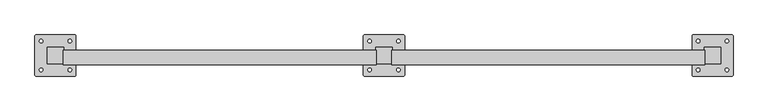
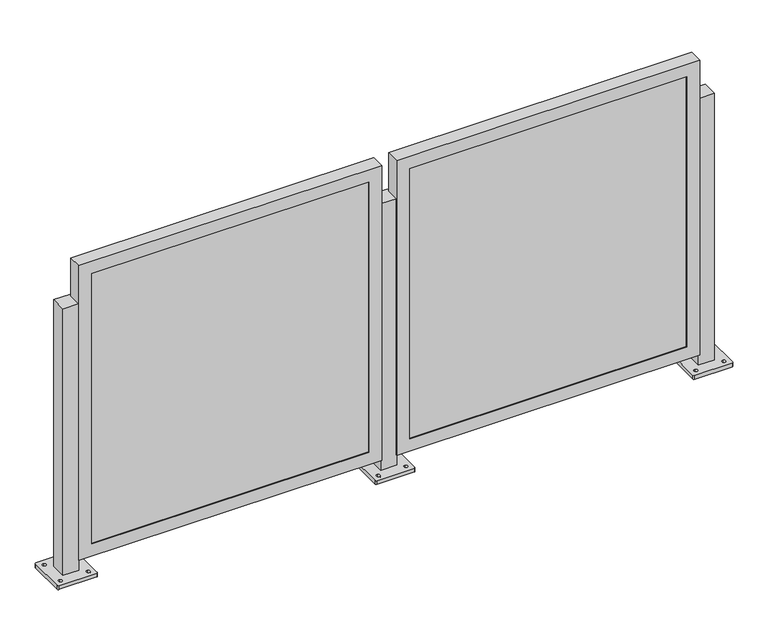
"""IFC4 building model written with IfcOpenShell, lengths in millimetres: railing geometry, Railing - Amico Architectural - Perforated Railing - Bilbao."""

import ifcopenshell
import ifcopenshell.guid

model = None  # the IFC model being written
_history = None  # IfcOwnerHistory: only IFC2X3 demands one
_inside = {}  # id of a spatial element -> (the spatial element, [elements in it])
_under = {}  # id of a project, library or spatial element -> (it, [spatial elements below it])
_declared = {}  # id of a project -> (the project, [libraries it declares])
_typed = {}  # id of a type object -> (the type object, [elements of that type])
_made_of = {}  # id of a material, layer set ... -> (it, [elements and type objects made of it])


def new_model(schema):
    """Start an empty IFC model of exactly this schema.

    Asked for "IFC4X3", IfcOpenShell would pick the latest addendum, in which some entities
    have other attributes; the version numbers below select the first issue.
    IFC2X3 requires an IfcOwnerHistory on every rooted entity: one is made here for all.
    """
    global model, _history
    if schema == "IFC4X3":
        model = ifcopenshell.file(schema_version=(4, 3, 0, 0))
    else:
        model = ifcopenshell.file(schema=schema)
    _inside.clear()
    _under.clear()
    _declared.clear()
    _typed.clear()
    _made_of.clear()
    _history = None
    if model.schema == "IFC2X3":
        org = make("IfcOrganization", Name="unknown")
        user = make(
            "IfcPersonAndOrganization",
            ThePerson=make("IfcPerson", FamilyName="unknown"),
            TheOrganization=org,
        )
        app = make(
            "IfcApplication",
            ApplicationDeveloper=org,
            Version="unknown",
            ApplicationFullName="unknown",
            ApplicationIdentifier="unknown",
        )
        _history = make(
            "IfcOwnerHistory",
            OwningUser=user,
            OwningApplication=app,
            ChangeAction="ADDED",
            CreationDate=0,
        )
    return model


def make(cls, **values):
    """One entity of the class cls with the attributes given. An attribute that is None is left unset."""
    return model.create_entity(
        cls, **{name: value for name, value in values.items() if value is not None}
    )


def rooted(cls, **values):
    """An entity with a GlobalId (a new one), such as an element, a storey or a relation."""
    return make(cls, GlobalId=ifcopenshell.guid.new(), OwnerHistory=_history, **values)


def si_unit(unit_type, name, prefix=None):
    """IfcSIUnit, for example si_unit("LENGTHUNIT", "METRE", prefix="MILLI")."""
    return make("IfcSIUnit", UnitType=unit_type, Prefix=prefix, Name=name)


def assignment(units):
    """IfcUnitAssignment: the units of a project."""
    return None if units is None else make("IfcUnitAssignment", Units=units)


def point(xyz):
    """IfcCartesianPoint."""
    return None if xyz is None else make("IfcCartesianPoint", Coordinates=xyz)


def direction(xyz):
    """IfcDirection."""
    return None if xyz is None else make("IfcDirection", DirectionRatios=xyz)


def frame(location, z_axis=None, x_axis=None):
    """IfcAxis2Placement3D, a coordinate frame: its origin and axes. An axis left out is left unset."""
    return make(
        "IfcAxis2Placement3D",
        Location=point(location),
        Axis=direction(z_axis),
        RefDirection=direction(x_axis),
    )


def origin():
    """The frame at (0, 0, 0) with its axes left unset."""
    return frame((0.0, 0.0, 0.0))


def place(relative_to, where):
    """IfcLocalPlacement: puts the frame where relative to a parent placement (None: the world)."""
    return make(
        "IfcLocalPlacement", PlacementRelTo=relative_to, RelativePlacement=where
    )


def context(
    kind, dimensions, precision=None, world=None, true_north=None, identifier=None
):
    """IfcGeometricRepresentationContext, for example the 3D "Model" context."""
    return make(
        "IfcGeometricRepresentationContext",
        ContextIdentifier=identifier,
        ContextType=kind,
        CoordinateSpaceDimension=dimensions,
        Precision=precision,
        WorldCoordinateSystem=world,
        TrueNorth=true_north,
    )


def project(units=None, contexts=None):
    """IfcProject with its units and contexts."""
    return rooted(
        "IfcProject",
        Name="project",
        RepresentationContexts=contexts,
        UnitsInContext=assignment(units),
    )


def spatial(cls, under=None, at=None, **own):
    """A site, building, storey or space (cls), placed at a placement, below another one or the project."""
    s = rooted(cls, ObjectPlacement=at, **own)
    if under is not None:
        _under.setdefault(under.id(), (under, []))[1].append(s)
    return s


def polyline(points):
    """IfcPolyline through the points."""
    return make("IfcPolyline", Points=[point(p) for p in points])


def circle_curve(where, radius):
    """IfcCircle in the frame where."""
    return make("IfcCircle", Position=where, Radius=radius)


def outline(outer, holes=None, kind="AREA"):
    """IfcArbitraryClosedProfileDef: a profile drawn as a closed curve; with holes, ...WithVoids."""
    if holes is None:
        return make("IfcArbitraryClosedProfileDef", ProfileType=kind, OuterCurve=outer)
    return make(
        "IfcArbitraryProfileDefWithVoids",
        ProfileType=kind,
        OuterCurve=outer,
        InnerCurves=holes,
    )


def extrude(swept, where, along, depth):
    """IfcExtrudedAreaSolid: the profile swept, set in the frame where, extruded along a direction by depth."""
    return make(
        "IfcExtrudedAreaSolid",
        SweptArea=swept,
        Position=where,
        ExtrudedDirection=direction(along),
        Depth=depth,
    )


def faces_of(points, faces, orient=None, outer=None):
    """IfcFace entities. A face is a list of loops; a loop is a list of indices into points, from 0.

    orient and outer hold one flag for each loop. By default every Orientation is true, the
    first loop of a face is its IfcFaceOuterBound and the others are IfcFaceBound.
    """
    made = []
    for i, loops in enumerate(faces):
        bounds = []
        for j, loop in enumerate(loops):
            is_outer = j == 0 if outer is None else outer[i][j]
            bounds.append(
                make(
                    "IfcFaceOuterBound" if is_outer else "IfcFaceBound",
                    Bound=make("IfcPolyLoop", Polygon=[points[k] for k in loop]),
                    Orientation=True if orient is None else orient[i][j],
                )
            )
        made.append(make("IfcFace", Bounds=bounds))
    return made


def faceted_brep(points, faces, orient=None, outer=None, voids=None):
    """IfcFacetedBrep: a solid bounded by flat faces; with voids (closed shells), ...WithVoids."""
    shared = [point(p) for p in points]
    hull = make("IfcClosedShell", CfsFaces=faces_of(shared, faces, orient, outer))
    if voids is None:
        return make("IfcFacetedBrep", Outer=hull)
    return make(
        "IfcFacetedBrepWithVoids",
        Outer=hull,
        Voids=[
            make(cls, CfsFaces=faces_of(shared, fs, o, b)) for cls, fs, o, b in voids
        ],
    )


def shape(context_of_items, identifier, shape_type, items):
    """IfcShapeRepresentation: the items that make up one representation, for example the "Body"."""
    return make(
        "IfcShapeRepresentation",
        ContextOfItems=context_of_items,
        RepresentationIdentifier=identifier,
        RepresentationType=shape_type,
        Items=items,
    )


def source(mapping_origin, context_of_items, identifier, shape_type, items):
    """IfcRepresentationMap: a shape defined once, which mapped items show again and again."""
    return make(
        "IfcRepresentationMap",
        MappingOrigin=mapping_origin,
        MappedRepresentation=shape(context_of_items, identifier, shape_type, items),
    )


def transform(
    local_origin,
    x_axis=None,
    y_axis=None,
    z_axis=None,
    scale=None,
    scale2=None,
    scale3=None,
    uniform=True,
):
    """IfcCartesianTransformationOperator3D, or its non-uniform kind. x_axis, y_axis, z_axis: its Axis1, 2, 3."""
    if uniform:
        return make(
            "IfcCartesianTransformationOperator3D",
            Axis1=direction(x_axis),
            Axis2=direction(y_axis),
            LocalOrigin=point(local_origin),
            Scale=scale,
            Axis3=direction(z_axis),
        )
    return make(
        "IfcCartesianTransformationOperator3DnonUniform",
        Axis1=direction(x_axis),
        Axis2=direction(y_axis),
        LocalOrigin=point(local_origin),
        Scale=scale,
        Axis3=direction(z_axis),
        Scale2=scale2,
        Scale3=scale3,
    )


def mapped(mapping_source, mapping_target):
    """IfcMappedItem: shows the shape of a source again, moved by a transform."""
    return make(
        "IfcMappedItem", MappingSource=mapping_source, MappingTarget=mapping_target
    )


def made_of(thing, what):
    """Note that an element or type object is made of a material, layer set ...; save() writes the relation."""
    if what is not None:
        _made_of.setdefault(what.id(), (what, []))[1].append(thing)
    return thing


def element(
    cls,
    number,
    at=None,
    inside=None,
    cuts=None,
    type_object=None,
    material=None,
    context=None,
    identifier="Body",
    shape_type=None,
    held_by="IfcProductDefinitionShape",
    body=None,
    shapes=None,
    **own,
):
    """One element of the class cls, such as IfcWall. Its Tag is "e" and its number.

    at: its placement. inside: the storey or other place that contains it. cuts: it is an
    opening in that element (IfcRelVoidsElement). A single representation is given by context,
    identifier, shape_type and body (its items); several are given by shapes. held_by: the class
    of the entity that holds the representations. save() writes the other relations.
    """
    e = rooted(cls, Tag="e%d" % number, ObjectPlacement=at, **own)
    if body is not None:
        shapes = [shape(context, identifier, shape_type, body)]
    if shapes is not None:
        e.Representation = make(held_by, Representations=shapes)
    if inside is not None:
        _inside.setdefault(inside.id(), (inside, []))[1].append(e)
    if cuts is not None:
        rooted(
            "IfcRelVoidsElement", RelatingBuildingElement=cuts, RelatedOpeningElement=e
        )
    if type_object is not None:
        _typed.setdefault(type_object.id(), (type_object, []))[1].append(e)
    return made_of(e, material)


def aggregate(whole, parts):
    """IfcRelAggregates: a whole, such as a stair, and the parts it consists of."""
    return rooted("IfcRelAggregates", RelatingObject=whole, RelatedObjects=parts)


def save(model, path):
    """Write the relations noted so far, then the file.

    IfcRelAggregates (storeys below a building ...), IfcRelContainedInSpatialStructure (elements
    in a storey), IfcRelDefinesByType, IfcRelAssociatesMaterial and IfcRelDeclares: one each for
    every whole, place, type object, material and project.
    """
    for whole, parts in _under.values():
        aggregate(whole, parts)
    for where, things in _inside.values():
        rooted(
            "IfcRelContainedInSpatialStructure",
            RelatedElements=things,
            RelatingStructure=where,
        )
    for kind, things in _typed.values():
        rooted("IfcRelDefinesByType", RelatedObjects=things, RelatingType=kind)
    for what, things in _made_of.values():
        rooted("IfcRelAssociatesMaterial", RelatedObjects=things, RelatingMaterial=what)
    for by, libraries in _declared.values():
        rooted("IfcRelDeclares", RelatingContext=by, RelatedDefinitions=libraries)
    model.write(path)


def plane_surface(at):
    """IfcPlane: the flat surface through the origin of the frame at, square to its z axis."""
    return make("IfcPlane", Position=at)


def cylinder_surface(at, radius):
    """IfcCylindricalSurface: all points at the distance radius from the z axis of the frame at."""
    return make("IfcCylindricalSurface", Position=at, Radius=radius)


def revolved_surface(curve, axis_point, axis_direction):
    """IfcSurfaceOfRevolution: the curve turned about the line through axis_point along axis_direction."""
    return make(
        "IfcSurfaceOfRevolution",
        SweptCurve=make("IfcArbitraryOpenProfileDef", ProfileType="CURVE", Curve=curve),
        AxisPosition=make("IfcAxis1Placement", Location=point(axis_point), Axis=direction(axis_direction)),
    )


def advanced_brep(points, edges, surfaces, faces):
    """IfcAdvancedBrep: a solid bounded by faces that lie on surfaces and meet in shared edges.

    An edge is (start, end): straight between two places in points (the first is 0);
    or (start, end, curve); or (start, end, curve, False) where it runs against its curve.
    A face is (place in surfaces, loops), or (place, loops, False) where it looks against
    its surface's normal. A loop lists edges by number (the first is 1), with a minus sign
    where the edge is run from its end to its start. The first loop is the outer one.
    """
    corners = [point(p) for p in points]
    vertices = [make("IfcVertexPoint", VertexGeometry=c) for c in corners]
    made = []
    for start, end, *more in edges:
        made.append(
            make(
                "IfcEdgeCurve",
                EdgeStart=vertices[start],
                EdgeEnd=vertices[end],
                EdgeGeometry=more[0] if more else make("IfcPolyline", Points=[corners[start], corners[end]]),
                SameSense=more[1] if len(more) > 1 else True,
            )
        )
    hull = []
    for where, loops, *sense in faces:
        bounds = []
        for j, loop in enumerate(loops):
            ring = [make("IfcOrientedEdge", EdgeElement=made[abs(k) - 1], Orientation=k > 0) for k in loop]
            bounds.append(
                make(
                    "IfcFaceOuterBound" if j == 0 else "IfcFaceBound",
                    Bound=make("IfcEdgeLoop", EdgeList=ring),
                    Orientation=True,
                )
            )
        hull.append(make("IfcAdvancedFace", Bounds=bounds, FaceSurface=surfaces[where], SameSense=sense[0] if sense else True))
    return make("IfcAdvancedBrep", Outer=make("IfcClosedShell", CfsFaces=hull))


def railing_8295e99d(model_context):
    return source(origin(), model_context, "Body", "SolidModel", [
        advanced_brep(
        [(-11309.6608616, -3820.6813531, 914.4), (-11309.6608616, -3871.4813531, 914.4), (-11258.8608616, -3871.4813531, 914.4), (-11258.8608616, -3820.6813531, 914.4), (-11347.7608618, -3906.4063121, 0.0), (-11347.7608618, -3785.7563942, 0.0), (-11344.5858336, -3782.581366, 0.0), (-11223.9358896, -3782.581366, 0.0), (-11220.7608615, -3785.7563942, 0.0), (-11220.7608615, -3906.4063121, 0.0), (-11223.9358896, -3909.5813403, 0.0), (-11344.5858336, -3909.5813403, 0.0), (-11328.7108492, -3896.0876078, 0.0), (-11328.7108492, -3884.9750953, 0.0), (-11328.7108601, -3807.1876034, 0.0), (-11328.7108601, -3796.0751218, 0.0), (-11239.8108482, -3896.0876063, 0.0), (-11239.8108482, -3884.9750956, 0.0), (-11239.8108591, -3807.1876019, 0.0), (-11239.8108591, -3796.0751221, 0.0), (-11309.6608616, -3820.6813531, 12.7), (-11309.6608616, -3871.4813531, 12.7), (-11258.8608616, -3871.4813531, 12.7), (-11258.8608616, -3820.6813531, 12.7), (-11347.7608618, -3906.4063121, 12.7), (-11344.5858336, -3909.5813403, 12.7), (-11223.9358896, -3909.5813403, 12.7), (-11220.7608615, -3906.4063121, 12.7), (-11220.7608615, -3785.7563942, 12.7), (-11223.9358896, -3782.581366, 12.7), (-11344.5858336, -3782.581366, 12.7), (-11347.7608618, -3785.7563942, 12.7), (-11328.7108492, -3896.0876078, 12.7), (-11328.7108492, -3884.9750953, 12.7), (-11328.7108601, -3807.1876034, 12.7), (-11328.7108601, -3796.0751218, 12.7), (-11239.8108482, -3896.0876063, 12.7), (-11239.8108482, -3884.9750956, 12.7), (-11239.8108591, -3807.1876019, 12.7), (-11239.8108591, -3796.0751221, 12.7)],
        [
            (0, 1),
            (1, 2),
            (2, 3),
            (3, 0),
            (4, 5),
            (5, 6, circle_curve(frame((-11344.5858336, -3785.7563942, 0.0), z_axis=(0.0, 0.0, -1.0), x_axis=(0.0, 1.0, 0.0)), 3.1750282)),
            (6, 7),
            (7, 8, circle_curve(frame((-11223.9358896, -3785.7563942, 0.0), z_axis=(0.0, 0.0, -1.0), x_axis=(0.0, 1.0, 0.0)), 3.1750282)),
            (8, 9),
            (9, 10, circle_curve(frame((-11223.9358896, -3906.4063121, 0.0), z_axis=(0.0, 0.0, -1.0), x_axis=(0.0, 1.0, 0.0)), 3.1750282)),
            (10, 11),
            (11, 4, circle_curve(frame((-11344.5858336, -3906.4063121, 0.0), z_axis=(0.0, 0.0, -1.0), x_axis=(0.0, 1.0, 0.0)), 3.1750282)),
            (12, 13, circle_curve(frame((-11328.7108492, -3890.5313516, 0.0), z_axis=(0.0, 0.0, 1.0), x_axis=(0.0, 1.0, 0.0)), 5.5562562)),
            (13, 12, circle_curve(frame((-11328.7108492, -3890.5313516, 0.0), z_axis=(0.0, 0.0, 1.0), x_axis=(0.0, 1.0, 0.0)), 5.5562562)),
            (14, 15, circle_curve(frame((-11328.7108601, -3801.6313626, 0.0), z_axis=(0.0, 0.0, 1.0), x_axis=(0.0, 1.0, 0.0)), 5.5562408)),
            (15, 14, circle_curve(frame((-11328.7108601, -3801.6313626, 0.0), z_axis=(0.0, 0.0, 1.0), x_axis=(0.0, 1.0, 0.0)), 5.5562408)),
            (16, 17, circle_curve(frame((-11239.8108482, -3890.5313509, 0.0), z_axis=(0.0, 0.0, 1.0), x_axis=(0.0, 1.0, 0.0)), 5.5562553)),
            (17, 16, circle_curve(frame((-11239.8108482, -3890.5313509, 0.0), z_axis=(0.0, 0.0, 1.0), x_axis=(0.0, 1.0, 0.0)), 5.5562553)),
            (18, 19, circle_curve(frame((-11239.8108591, -3801.631362, 0.0), z_axis=(0.0, 0.0, 1.0), x_axis=(0.0, 1.0, 0.0)), 5.5562399)),
            (19, 18, circle_curve(frame((-11239.8108591, -3801.631362, 0.0), z_axis=(0.0, 0.0, 1.0), x_axis=(0.0, 1.0, 0.0)), 5.5562399)),
            (0, 20),
            (20, 21),
            (21, 1),
            (21, 22),
            (22, 2),
            (22, 23),
            (23, 3),
            (23, 20),
            (24, 25, circle_curve(frame((-11344.5858336, -3906.4063121, 12.7), z_axis=(0.0, 0.0, 1.0), x_axis=(0.0, 1.0, 0.0)), 3.1750282)),
            (25, 26),
            (26, 27, circle_curve(frame((-11223.9358896, -3906.4063121, 12.7), z_axis=(0.0, 0.0, 1.0), x_axis=(0.0, 1.0, 0.0)), 3.1750282)),
            (27, 28),
            (28, 29, circle_curve(frame((-11223.9358896, -3785.7563942, 12.7), z_axis=(0.0, 0.0, 1.0), x_axis=(0.0, 1.0, 0.0)), 3.1750282)),
            (29, 30),
            (30, 31, circle_curve(frame((-11344.5858336, -3785.7563942, 12.7), z_axis=(0.0, 0.0, 1.0), x_axis=(0.0, 1.0, 0.0)), 3.1750282)),
            (31, 24),
            (32, 33, circle_curve(frame((-11328.7108492, -3890.5313516, 12.7), z_axis=(0.0, 0.0, -1.0), x_axis=(0.0, 1.0, 0.0)), 5.5562562)),
            (33, 32, circle_curve(frame((-11328.7108492, -3890.5313516, 12.7), z_axis=(0.0, 0.0, -1.0), x_axis=(0.0, 1.0, 0.0)), 5.5562562)),
            (34, 35, circle_curve(frame((-11328.7108601, -3801.6313626, 12.7), z_axis=(0.0, 0.0, -1.0), x_axis=(0.0, 1.0, 0.0)), 5.5562408)),
            (35, 34, circle_curve(frame((-11328.7108601, -3801.6313626, 12.7), z_axis=(0.0, 0.0, -1.0), x_axis=(0.0, 1.0, 0.0)), 5.5562408)),
            (36, 37, circle_curve(frame((-11239.8108482, -3890.5313509, 12.7), z_axis=(0.0, 0.0, -1.0), x_axis=(0.0, 1.0, 0.0)), 5.5562553)),
            (37, 36, circle_curve(frame((-11239.8108482, -3890.5313509, 12.7), z_axis=(0.0, 0.0, -1.0), x_axis=(0.0, 1.0, 0.0)), 5.5562553)),
            (38, 39, circle_curve(frame((-11239.8108591, -3801.631362, 12.7), z_axis=(0.0, 0.0, -1.0), x_axis=(0.0, 1.0, 0.0)), 5.5562399)),
            (39, 38, circle_curve(frame((-11239.8108591, -3801.631362, 12.7), z_axis=(0.0, 0.0, -1.0), x_axis=(0.0, 1.0, 0.0)), 5.5562399)),
            (24, 4),
            (11, 25),
            (10, 26),
            (9, 27),
            (8, 28),
            (7, 29),
            (6, 30),
            (5, 31),
            (32, 12),
            (13, 33),
            (34, 14),
            (15, 35),
            (36, 16),
            (17, 37),
            (38, 18),
            (19, 39),
        ],
        [
            plane_surface(frame((-11309.6608616, -3871.4813531, 914.4), z_axis=(0.0, 0.0, 1.0), x_axis=(0.0, -1.0, 0.0))),
            plane_surface(frame((-11309.6608616, -3871.4813531, 0.0), z_axis=(0.0, 0.0, -1.0), x_axis=(0.0, 1.0, 0.0))),
            plane_surface(frame((-11309.6608616, -3820.6813531, 914.4), z_axis=(-1.0, 0.0, 0.0), x_axis=(0.0, 0.0, -1.0))),
            plane_surface(frame((-11309.6608616, -3871.4813531, 914.4), z_axis=(0.0, -1.0, 0.0), x_axis=(0.0, 0.0, -1.0))),
            plane_surface(frame((-11258.8608616, -3871.4813531, 914.4), z_axis=(1.0, 0.0, 0.0), x_axis=(0.0, 0.0, -1.0))),
            plane_surface(frame((-11258.8608616, -3820.6813531, 914.4), z_axis=(0.0, 1.0, 0.0), x_axis=(0.0, 0.0, -1.0))),
            plane_surface(frame((-11344.5858336, -3903.231284, 12.7), z_axis=(0.0, 0.0, 1.0), x_axis=(-1.0, 0.0, 0.0))),
            cylinder_surface(frame((-11344.5858336, -3906.4063121, 0.0), z_axis=(0.0, 0.0, 1.0), x_axis=(0.0, 1.0, 0.0)), 3.1750282),
            plane_surface(frame((-11344.5858336, -3909.5813403, 12.7), z_axis=(1.1945386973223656e-12, -1.0, 0.0), x_axis=(0.0, 0.0, -1.0))),
            cylinder_surface(frame((-11223.9358896, -3906.4063121, 0.0), z_axis=(0.0, 0.0, 1.0), x_axis=(0.0, 1.0, 0.0)), 3.1750282),
            plane_surface(frame((-11220.7608615, -3906.4063121, 12.7), z_axis=(1.0, 0.0, 0.0), x_axis=(0.0, 0.0, -1.0))),
            cylinder_surface(frame((-11223.9358896, -3785.7563942, 0.0), z_axis=(0.0, 0.0, 1.0), x_axis=(0.0, 1.0, 0.0)), 3.1750282),
            plane_surface(frame((-11223.9358896, -3782.581366, 12.7), z_axis=(-1.1946088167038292e-12, 1.0, 0.0), x_axis=(0.0, 0.0, -1.0))),
            cylinder_surface(frame((-11344.5858336, -3785.7563942, 0.0), z_axis=(0.0, 0.0, 1.0), x_axis=(0.0, 1.0, 0.0)), 3.1750282),
            plane_surface(frame((-11347.7608618, -3785.7563942, 12.7), z_axis=(-1.0, 0.0, 0.0), x_axis=(0.0, 0.0, -1.0))),
            revolved_surface(polyline([(-11328.7108492, -3884.9750954, 0.0), (-11328.7108492, -3884.9750954, 12.7)]), (-11328.7108492, -3890.5313516, 0.0), (0.0, 0.0, -1.0)),
            revolved_surface(polyline([(-11328.7108601, -3796.0751218, 0.0), (-11328.7108601, -3796.0751218, 12.7)]), (-11328.7108601, -3801.6313626, 0.0), (0.0, 0.0, -1.0)),
            revolved_surface(polyline([(-11239.8108482, -3884.9750956, 0.0), (-11239.8108482, -3884.9750956, 12.7)]), (-11239.8108482, -3890.5313509, 0.0), (0.0, 0.0, -1.0)),
            revolved_surface(polyline([(-11239.8108591, -3796.0751221, 0.0), (-11239.8108591, -3796.0751221, 12.7)]), (-11239.8108591, -3801.631362, 0.0), (0.0, 0.0, -1.0)),
        ],
        [
            (0, [[1, 2, 3, 4]]),
            (1, [[5, 6, 7, 8, 9, 10, 11, 12], [13, 14], [15, 16], [17, 18], [19, 20]]),
            (2, [[-1, 21, 22, 23]]),
            (3, [[-2, -23, 24, 25]]),
            (4, [[-3, -25, 26, 27]]),
            (5, [[-4, -27, 28, -21]]),
            (6, [[29, 30, 31, 32, 33, 34, 35, 36], [-22, -28, -26, -24], [37, 38], [39, 40], [41, 42], [43, 44]]),
            (7, [[-29, 45, -12, 46]]),
            (8, [[-30, -46, -11, 47]]),
            (9, [[-31, -47, -10, 48]]),
            (10, [[-32, -48, -9, 49]]),
            (11, [[-33, -49, -8, 50]]),
            (12, [[-34, -50, -7, 51]]),
            (13, [[-35, -51, -6, 52]]),
            (14, [[-36, -52, -5, -45]]),
            (15, [[-37, 53, -14, 54]]),
            (15, [[-38, -54, -13, -53]]),
            (16, [[-39, 55, -16, 56]]),
            (16, [[-40, -56, -15, -55]]),
            (17, [[-41, 57, -18, 58]]),
            (17, [[-42, -58, -17, -57]]),
            (18, [[-43, 59, -20, 60]]),
            (18, [[-44, -60, -19, -59]]),
        ],
    ),
        faceted_brep([(-12276.065315, -3874.2245531, 47.625), (-11307.690315, -3874.2245531, 47.625), (-11307.690315, -3874.2245531, 1044.575), (-12276.065315, -3874.2245531, 1044.575), (-12234.790315, -3874.2245531, 1003.3), (-11348.965315, -3874.2245531, 1003.3), (-11348.965315, -3874.2245531, 88.9), (-12234.790315, -3874.2245531, 88.9), (-12234.790315, -3871.4813531, 1003.3), (-12234.790315, -3871.4813531, 88.9), (-12276.065315, -3830.3512566, 1044.575), (-12276.065315, -3830.3512566, 47.625), (-12272.890315, -3830.3512566, 1041.4), (-12272.890315, -3871.4813531, 1041.4), (-12272.890315, -3871.4813531, 50.8), (-12272.890315, -3830.3512566, 50.8), (-11348.965315, -3871.4813531, 88.9), (-11307.690315, -3830.3512566, 47.625), (-11310.865315, -3871.4813531, 50.8), (-11310.865315, -3830.3512566, 50.8), (-11348.965315, -3871.4813531, 1003.3), (-11307.690315, -3830.3512566, 1044.575), (-11310.865315, -3871.4813531, 1041.4), (-11310.865315, -3830.3512566, 1041.4)], [[[0, 1, 2, 3], [4, 5, 6, 7]], [[8, 4, 7, 9]], [[3, 10, 11, 0]], [[12, 13, 14, 15]], [[9, 7, 6, 16]], [[0, 11, 17, 1]], [[15, 14, 18, 19]], [[16, 6, 5, 20]], [[1, 17, 21, 2]], [[19, 18, 22, 23]], [[20, 5, 4, 8]], [[10, 21, 17, 11], [15, 19, 23, 12]], [[2, 21, 10, 3]], [[13, 22, 18, 14], [9, 16, 20, 8]], [[23, 22, 13, 12]]]),
        extrude(outline(polyline([(-12272.890315, -3861.9563531), (-11310.865315, -3861.9563531), (-11310.865315, -3871.4813531), (-12272.890315, -3871.4813531), (-12272.890315, -3861.9563531)])), frame((0.0, 0.0, 50.8), z_axis=(0.0, 0.0, 1.0), x_axis=(1.0, 0.0, 0.0)), (0.0, 0.0, 1.0), 990.6),
        advanced_brep(
        [(-12325.6608616, -3820.6813531, 914.4), (-12325.6608616, -3871.4813531, 914.4), (-12274.8608616, -3871.4813531, 914.4), (-12274.8608616, -3820.6813531, 914.4), (-12363.7608618, -3906.4063121, 0.0), (-12363.7608618, -3785.7563942, 0.0), (-12360.5858336, -3782.581366, 0.0), (-12239.9358896, -3782.581366, 0.0), (-12236.7608615, -3785.7563942, 0.0), (-12236.7608615, -3906.4063121, 0.0), (-12239.9358896, -3909.5813403, 0.0), (-12360.5858336, -3909.5813403, 0.0), (-12344.7108492, -3896.0876078, 0.0), (-12344.7108492, -3884.9750953, 0.0), (-12344.7108601, -3807.1876034, 0.0), (-12344.7108601, -3796.0751218, 0.0), (-12255.8108482, -3896.0876063, 0.0), (-12255.8108482, -3884.9750956, 0.0), (-12255.8108591, -3807.1876019, 0.0), (-12255.8108591, -3796.0751221, 0.0), (-12325.6608616, -3820.6813531, 12.7), (-12325.6608616, -3871.4813531, 12.7), (-12274.8608616, -3871.4813531, 12.7), (-12274.8608616, -3820.6813531, 12.7), (-12363.7608618, -3906.4063121, 12.7), (-12360.5858336, -3909.5813403, 12.7), (-12239.9358896, -3909.5813403, 12.7), (-12236.7608615, -3906.4063121, 12.7), (-12236.7608615, -3785.7563942, 12.7), (-12239.9358896, -3782.581366, 12.7), (-12360.5858336, -3782.581366, 12.7), (-12363.7608618, -3785.7563942, 12.7), (-12344.7108492, -3896.0876078, 12.7), (-12344.7108492, -3884.9750953, 12.7), (-12344.7108601, -3807.1876034, 12.7), (-12344.7108601, -3796.0751218, 12.7), (-12255.8108482, -3896.0876063, 12.7), (-12255.8108482, -3884.9750956, 12.7), (-12255.8108591, -3807.1876019, 12.7), (-12255.8108591, -3796.0751221, 12.7)],
        [
            (0, 1),
            (1, 2),
            (2, 3),
            (3, 0),
            (4, 5),
            (5, 6, circle_curve(frame((-12360.5858336, -3785.7563942, 0.0), z_axis=(0.0, 0.0, -1.0), x_axis=(0.0, 1.0, 0.0)), 3.1750282)),
            (6, 7),
            (7, 8, circle_curve(frame((-12239.9358896, -3785.7563942, 0.0), z_axis=(0.0, 0.0, -1.0), x_axis=(0.0, 1.0, 0.0)), 3.1750282)),
            (8, 9),
            (9, 10, circle_curve(frame((-12239.9358896, -3906.4063121, 0.0), z_axis=(0.0, 0.0, -1.0), x_axis=(0.0, 1.0, 0.0)), 3.1750282)),
            (10, 11),
            (11, 4, circle_curve(frame((-12360.5858336, -3906.4063121, 0.0), z_axis=(0.0, 0.0, -1.0), x_axis=(0.0, 1.0, 0.0)), 3.1750282)),
            (12, 13, circle_curve(frame((-12344.7108492, -3890.5313516, 0.0), z_axis=(0.0, 0.0, 1.0), x_axis=(0.0, 1.0, 0.0)), 5.5562562)),
            (13, 12, circle_curve(frame((-12344.7108492, -3890.5313516, 0.0), z_axis=(0.0, 0.0, 1.0), x_axis=(0.0, 1.0, 0.0)), 5.5562562)),
            (14, 15, circle_curve(frame((-12344.7108601, -3801.6313626, 0.0), z_axis=(0.0, 0.0, 1.0), x_axis=(0.0, 1.0, 0.0)), 5.5562408)),
            (15, 14, circle_curve(frame((-12344.7108601, -3801.6313626, 0.0), z_axis=(0.0, 0.0, 1.0), x_axis=(0.0, 1.0, 0.0)), 5.5562408)),
            (16, 17, circle_curve(frame((-12255.8108482, -3890.5313509, 0.0), z_axis=(0.0, 0.0, 1.0), x_axis=(0.0, 1.0, 0.0)), 5.5562553)),
            (17, 16, circle_curve(frame((-12255.8108482, -3890.5313509, 0.0), z_axis=(0.0, 0.0, 1.0), x_axis=(0.0, 1.0, 0.0)), 5.5562553)),
            (18, 19, circle_curve(frame((-12255.8108591, -3801.631362, 0.0), z_axis=(0.0, 0.0, 1.0), x_axis=(0.0, 1.0, 0.0)), 5.5562399)),
            (19, 18, circle_curve(frame((-12255.8108591, -3801.631362, 0.0), z_axis=(0.0, 0.0, 1.0), x_axis=(0.0, 1.0, 0.0)), 5.5562399)),
            (0, 20),
            (20, 21),
            (21, 1),
            (21, 22),
            (22, 2),
            (22, 23),
            (23, 3),
            (23, 20),
            (24, 25, circle_curve(frame((-12360.5858336, -3906.4063121, 12.7), z_axis=(0.0, 0.0, 1.0), x_axis=(0.0, 1.0, 0.0)), 3.1750282)),
            (25, 26),
            (26, 27, circle_curve(frame((-12239.9358896, -3906.4063121, 12.7), z_axis=(0.0, 0.0, 1.0), x_axis=(0.0, 1.0, 0.0)), 3.1750282)),
            (27, 28),
            (28, 29, circle_curve(frame((-12239.9358896, -3785.7563942, 12.7), z_axis=(0.0, 0.0, 1.0), x_axis=(0.0, 1.0, 0.0)), 3.1750282)),
            (29, 30),
            (30, 31, circle_curve(frame((-12360.5858336, -3785.7563942, 12.7), z_axis=(0.0, 0.0, 1.0), x_axis=(0.0, 1.0, 0.0)), 3.1750282)),
            (31, 24),
            (32, 33, circle_curve(frame((-12344.7108492, -3890.5313516, 12.7), z_axis=(0.0, 0.0, -1.0), x_axis=(0.0, 1.0, 0.0)), 5.5562562)),
            (33, 32, circle_curve(frame((-12344.7108492, -3890.5313516, 12.7), z_axis=(0.0, 0.0, -1.0), x_axis=(0.0, 1.0, 0.0)), 5.5562562)),
            (34, 35, circle_curve(frame((-12344.7108601, -3801.6313626, 12.7), z_axis=(0.0, 0.0, -1.0), x_axis=(0.0, 1.0, 0.0)), 5.5562408)),
            (35, 34, circle_curve(frame((-12344.7108601, -3801.6313626, 12.7), z_axis=(0.0, 0.0, -1.0), x_axis=(0.0, 1.0, 0.0)), 5.5562408)),
            (36, 37, circle_curve(frame((-12255.8108482, -3890.5313509, 12.7), z_axis=(0.0, 0.0, -1.0), x_axis=(0.0, 1.0, 0.0)), 5.5562553)),
            (37, 36, circle_curve(frame((-12255.8108482, -3890.5313509, 12.7), z_axis=(0.0, 0.0, -1.0), x_axis=(0.0, 1.0, 0.0)), 5.5562553)),
            (38, 39, circle_curve(frame((-12255.8108591, -3801.631362, 12.7), z_axis=(0.0, 0.0, -1.0), x_axis=(0.0, 1.0, 0.0)), 5.5562399)),
            (39, 38, circle_curve(frame((-12255.8108591, -3801.631362, 12.7), z_axis=(0.0, 0.0, -1.0), x_axis=(0.0, 1.0, 0.0)), 5.5562399)),
            (24, 4),
            (11, 25),
            (10, 26),
            (9, 27),
            (8, 28),
            (7, 29),
            (6, 30),
            (5, 31),
            (32, 12),
            (13, 33),
            (34, 14),
            (15, 35),
            (36, 16),
            (17, 37),
            (38, 18),
            (19, 39),
        ],
        [
            plane_surface(frame((-12325.6608616, -3871.4813531, 914.4), z_axis=(0.0, 0.0, 1.0), x_axis=(0.0, -1.0, 0.0))),
            plane_surface(frame((-12325.6608616, -3871.4813531, 0.0), z_axis=(0.0, 0.0, -1.0), x_axis=(0.0, 1.0, 0.0))),
            plane_surface(frame((-12325.6608616, -3820.6813531, 914.4), z_axis=(-1.0, 0.0, 0.0), x_axis=(0.0, 0.0, -1.0))),
            plane_surface(frame((-12325.6608616, -3871.4813531, 914.4), z_axis=(0.0, -1.0, 0.0), x_axis=(0.0, 0.0, -1.0))),
            plane_surface(frame((-12274.8608616, -3871.4813531, 914.4), z_axis=(1.0, 0.0, 0.0), x_axis=(0.0, 0.0, -1.0))),
            plane_surface(frame((-12274.8608616, -3820.6813531, 914.4), z_axis=(0.0, 1.0, 0.0), x_axis=(0.0, 0.0, -1.0))),
            plane_surface(frame((-12360.5858336, -3903.231284, 12.7), z_axis=(0.0, 0.0, 1.0), x_axis=(-1.0, 0.0, 0.0))),
            cylinder_surface(frame((-12360.5858336, -3906.4063121, 0.0), z_axis=(0.0, 0.0, 1.0), x_axis=(0.0, 1.0, 0.0)), 3.1750282),
            plane_surface(frame((-12360.5858336, -3909.5813403, 12.7), z_axis=(1.1945386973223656e-12, -1.0, 0.0), x_axis=(0.0, 0.0, -1.0))),
            cylinder_surface(frame((-12239.9358896, -3906.4063121, 0.0), z_axis=(0.0, 0.0, 1.0), x_axis=(0.0, 1.0, 0.0)), 3.1750282),
            plane_surface(frame((-12236.7608615, -3906.4063121, 12.7), z_axis=(1.0, 0.0, 0.0), x_axis=(0.0, 0.0, -1.0))),
            cylinder_surface(frame((-12239.9358896, -3785.7563942, 0.0), z_axis=(0.0, 0.0, 1.0), x_axis=(0.0, 1.0, 0.0)), 3.1750282),
            plane_surface(frame((-12239.9358896, -3782.581366, 12.7), z_axis=(-1.1946088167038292e-12, 1.0, 0.0), x_axis=(0.0, 0.0, -1.0))),
            cylinder_surface(frame((-12360.5858336, -3785.7563942, 0.0), z_axis=(0.0, 0.0, 1.0), x_axis=(0.0, 1.0, 0.0)), 3.1750282),
            plane_surface(frame((-12363.7608618, -3785.7563942, 12.7), z_axis=(-1.0, 0.0, 0.0), x_axis=(0.0, 0.0, -1.0))),
            revolved_surface(polyline([(-12344.7108492, -3884.9750954, 0.0), (-12344.7108492, -3884.9750954, 12.7)]), (-12344.7108492, -3890.5313516, 0.0), (0.0, 0.0, -1.0)),
            revolved_surface(polyline([(-12344.7108601, -3796.0751218, 0.0), (-12344.7108601, -3796.0751218, 12.7)]), (-12344.7108601, -3801.6313626, 0.0), (0.0, 0.0, -1.0)),
            revolved_surface(polyline([(-12255.8108482, -3884.9750956, 0.0), (-12255.8108482, -3884.9750956, 12.7)]), (-12255.8108482, -3890.5313509, 0.0), (0.0, 0.0, -1.0)),
            revolved_surface(polyline([(-12255.8108591, -3796.0751221, 0.0), (-12255.8108591, -3796.0751221, 12.7)]), (-12255.8108591, -3801.631362, 0.0), (0.0, 0.0, -1.0)),
        ],
        [
            (0, [[1, 2, 3, 4]]),
            (1, [[5, 6, 7, 8, 9, 10, 11, 12], [13, 14], [15, 16], [17, 18], [19, 20]]),
            (2, [[-1, 21, 22, 23]]),
            (3, [[-2, -23, 24, 25]]),
            (4, [[-3, -25, 26, 27]]),
            (5, [[-4, -27, 28, -21]]),
            (6, [[29, 30, 31, 32, 33, 34, 35, 36], [-22, -28, -26, -24], [37, 38], [39, 40], [41, 42], [43, 44]]),
            (7, [[-29, 45, -12, 46]]),
            (8, [[-30, -46, -11, 47]]),
            (9, [[-31, -47, -10, 48]]),
            (10, [[-32, -48, -9, 49]]),
            (11, [[-33, -49, -8, 50]]),
            (12, [[-34, -50, -7, 51]]),
            (13, [[-35, -51, -6, 52]]),
            (14, [[-36, -52, -5, -45]]),
            (15, [[-37, 53, -14, 54]]),
            (15, [[-38, -54, -13, -53]]),
            (16, [[-39, 55, -16, 56]]),
            (16, [[-40, -56, -15, -55]]),
            (17, [[-41, 57, -18, 58]]),
            (17, [[-42, -58, -17, -57]]),
            (18, [[-43, 59, -20, 60]]),
            (18, [[-44, -60, -19, -59]]),
        ],
    ),
        faceted_brep([(-13292.065315, -3874.2245531, 47.625), (-12323.690315, -3874.2245531, 47.625), (-12323.690315, -3874.2245531, 1044.575), (-13292.065315, -3874.2245531, 1044.575), (-13250.790315, -3874.2245531, 1003.3), (-12364.965315, -3874.2245531, 1003.3), (-12364.965315, -3874.2245531, 88.9), (-13250.790315, -3874.2245531, 88.9), (-13250.790315, -3871.4813531, 1003.3), (-13250.790315, -3871.4813531, 88.9), (-13292.065315, -3830.3512566, 1044.575), (-13292.065315, -3830.3512566, 47.625), (-13288.890315, -3830.3512566, 1041.4), (-13288.890315, -3871.4813531, 1041.4), (-13288.890315, -3871.4813531, 50.8), (-13288.890315, -3830.3512566, 50.8), (-12364.965315, -3871.4813531, 88.9), (-12323.690315, -3830.3512566, 47.625), (-12326.865315, -3871.4813531, 50.8), (-12326.865315, -3830.3512566, 50.8), (-12364.965315, -3871.4813531, 1003.3), (-12323.690315, -3830.3512566, 1044.575), (-12326.865315, -3871.4813531, 1041.4), (-12326.865315, -3830.3512566, 1041.4)], [[[0, 1, 2, 3], [4, 5, 6, 7]], [[8, 4, 7, 9]], [[3, 10, 11, 0]], [[12, 13, 14, 15]], [[9, 7, 6, 16]], [[0, 11, 17, 1]], [[15, 14, 18, 19]], [[16, 6, 5, 20]], [[1, 17, 21, 2]], [[19, 18, 22, 23]], [[20, 5, 4, 8]], [[10, 21, 17, 11], [15, 19, 23, 12]], [[2, 21, 10, 3]], [[13, 22, 18, 14], [9, 16, 20, 8]], [[23, 22, 13, 12]]]),
        extrude(outline(polyline([(-13288.890315, -3861.9563531), (-12326.865315, -3861.9563531), (-12326.865315, -3871.4813531), (-13288.890315, -3871.4813531), (-13288.890315, -3861.9563531)])), frame((0.0, 0.0, 50.8), z_axis=(0.0, 0.0, 1.0), x_axis=(1.0, 0.0, 0.0)), (0.0, 0.0, 1.0), 990.6),
        advanced_brep(
        [(-13341.6608616, -3820.6813531, 914.4), (-13341.6608616, -3871.4813531, 914.4), (-13290.8608616, -3871.4813531, 914.4), (-13290.8608616, -3820.6813531, 914.4), (-13379.7608618, -3906.4063121, 0.0), (-13379.7608618, -3785.7563942, 0.0), (-13376.5858336, -3782.581366, 0.0), (-13255.9358896, -3782.581366, 0.0), (-13252.7608615, -3785.7563942, 0.0), (-13252.7608615, -3906.4063121, 0.0), (-13255.9358896, -3909.5813403, 0.0), (-13376.5858336, -3909.5813403, 0.0), (-13360.7108492, -3896.0876078, 0.0), (-13360.7108492, -3884.9750953, 0.0), (-13360.7108601, -3807.1876034, 0.0), (-13360.7108601, -3796.0751218, 0.0), (-13271.8108482, -3896.0876063, 0.0), (-13271.8108482, -3884.9750956, 0.0), (-13271.8108591, -3807.1876019, 0.0), (-13271.8108591, -3796.0751221, 0.0), (-13341.6608616, -3820.6813531, 12.7), (-13341.6608616, -3871.4813531, 12.7), (-13290.8608616, -3871.4813531, 12.7), (-13290.8608616, -3820.6813531, 12.7), (-13379.7608618, -3906.4063121, 12.7), (-13376.5858336, -3909.5813403, 12.7), (-13255.9358896, -3909.5813403, 12.7), (-13252.7608615, -3906.4063121, 12.7), (-13252.7608615, -3785.7563942, 12.7), (-13255.9358896, -3782.581366, 12.7), (-13376.5858336, -3782.581366, 12.7), (-13379.7608618, -3785.7563942, 12.7), (-13360.7108492, -3896.0876078, 12.7), (-13360.7108492, -3884.9750953, 12.7), (-13360.7108601, -3807.1876034, 12.7), (-13360.7108601, -3796.0751218, 12.7), (-13271.8108482, -3896.0876063, 12.7), (-13271.8108482, -3884.9750956, 12.7), (-13271.8108591, -3807.1876019, 12.7), (-13271.8108591, -3796.0751221, 12.7)],
        [
            (0, 1),
            (1, 2),
            (2, 3),
            (3, 0),
            (4, 5),
            (5, 6, circle_curve(frame((-13376.5858336, -3785.7563942, 0.0), z_axis=(0.0, 0.0, -1.0), x_axis=(0.0, 1.0, 0.0)), 3.1750282)),
            (6, 7),
            (7, 8, circle_curve(frame((-13255.9358896, -3785.7563942, 0.0), z_axis=(0.0, 0.0, -1.0), x_axis=(0.0, 1.0, 0.0)), 3.1750282)),
            (8, 9),
            (9, 10, circle_curve(frame((-13255.9358896, -3906.4063121, 0.0), z_axis=(0.0, 0.0, -1.0), x_axis=(0.0, 1.0, 0.0)), 3.1750282)),
            (10, 11),
            (11, 4, circle_curve(frame((-13376.5858336, -3906.4063121, 0.0), z_axis=(0.0, 0.0, -1.0), x_axis=(0.0, 1.0, 0.0)), 3.1750282)),
            (12, 13, circle_curve(frame((-13360.7108492, -3890.5313516, 0.0), z_axis=(0.0, 0.0, 1.0), x_axis=(0.0, 1.0, 0.0)), 5.5562562)),
            (13, 12, circle_curve(frame((-13360.7108492, -3890.5313516, 0.0), z_axis=(0.0, 0.0, 1.0), x_axis=(0.0, 1.0, 0.0)), 5.5562562)),
            (14, 15, circle_curve(frame((-13360.7108601, -3801.6313626, 0.0), z_axis=(0.0, 0.0, 1.0), x_axis=(0.0, 1.0, 0.0)), 5.5562408)),
            (15, 14, circle_curve(frame((-13360.7108601, -3801.6313626, 0.0), z_axis=(0.0, 0.0, 1.0), x_axis=(0.0, 1.0, 0.0)), 5.5562408)),
            (16, 17, circle_curve(frame((-13271.8108482, -3890.5313509, 0.0), z_axis=(0.0, 0.0, 1.0), x_axis=(0.0, 1.0, 0.0)), 5.5562553)),
            (17, 16, circle_curve(frame((-13271.8108482, -3890.5313509, 0.0), z_axis=(0.0, 0.0, 1.0), x_axis=(0.0, 1.0, 0.0)), 5.5562553)),
            (18, 19, circle_curve(frame((-13271.8108591, -3801.631362, 0.0), z_axis=(0.0, 0.0, 1.0), x_axis=(0.0, 1.0, 0.0)), 5.5562399)),
            (19, 18, circle_curve(frame((-13271.8108591, -3801.631362, 0.0), z_axis=(0.0, 0.0, 1.0), x_axis=(0.0, 1.0, 0.0)), 5.5562399)),
            (0, 20),
            (20, 21),
            (21, 1),
            (21, 22),
            (22, 2),
            (22, 23),
            (23, 3),
            (23, 20),
            (24, 25, circle_curve(frame((-13376.5858336, -3906.4063121, 12.7), z_axis=(0.0, 0.0, 1.0), x_axis=(0.0, 1.0, 0.0)), 3.1750282)),
            (25, 26),
            (26, 27, circle_curve(frame((-13255.9358896, -3906.4063121, 12.7), z_axis=(0.0, 0.0, 1.0), x_axis=(0.0, 1.0, 0.0)), 3.1750282)),
            (27, 28),
            (28, 29, circle_curve(frame((-13255.9358896, -3785.7563942, 12.7), z_axis=(0.0, 0.0, 1.0), x_axis=(0.0, 1.0, 0.0)), 3.1750282)),
            (29, 30),
            (30, 31, circle_curve(frame((-13376.5858336, -3785.7563942, 12.7), z_axis=(0.0, 0.0, 1.0), x_axis=(0.0, 1.0, 0.0)), 3.1750282)),
            (31, 24),
            (32, 33, circle_curve(frame((-13360.7108492, -3890.5313516, 12.7), z_axis=(0.0, 0.0, -1.0), x_axis=(0.0, 1.0, 0.0)), 5.5562562)),
            (33, 32, circle_curve(frame((-13360.7108492, -3890.5313516, 12.7), z_axis=(0.0, 0.0, -1.0), x_axis=(0.0, 1.0, 0.0)), 5.5562562)),
            (34, 35, circle_curve(frame((-13360.7108601, -3801.6313626, 12.7), z_axis=(0.0, 0.0, -1.0), x_axis=(0.0, 1.0, 0.0)), 5.5562408)),
            (35, 34, circle_curve(frame((-13360.7108601, -3801.6313626, 12.7), z_axis=(0.0, 0.0, -1.0), x_axis=(0.0, 1.0, 0.0)), 5.5562408)),
            (36, 37, circle_curve(frame((-13271.8108482, -3890.5313509, 12.7), z_axis=(0.0, 0.0, -1.0), x_axis=(0.0, 1.0, 0.0)), 5.5562553)),
            (37, 36, circle_curve(frame((-13271.8108482, -3890.5313509, 12.7), z_axis=(0.0, 0.0, -1.0), x_axis=(0.0, 1.0, 0.0)), 5.5562553)),
            (38, 39, circle_curve(frame((-13271.8108591, -3801.631362, 12.7), z_axis=(0.0, 0.0, -1.0), x_axis=(0.0, 1.0, 0.0)), 5.5562399)),
            (39, 38, circle_curve(frame((-13271.8108591, -3801.631362, 12.7), z_axis=(0.0, 0.0, -1.0), x_axis=(0.0, 1.0, 0.0)), 5.5562399)),
            (24, 4),
            (11, 25),
            (10, 26),
            (9, 27),
            (8, 28),
            (7, 29),
            (6, 30),
            (5, 31),
            (32, 12),
            (13, 33),
            (34, 14),
            (15, 35),
            (36, 16),
            (17, 37),
            (38, 18),
            (19, 39),
        ],
        [
            plane_surface(frame((-13341.6608616, -3871.4813531, 914.4), z_axis=(0.0, 0.0, 1.0), x_axis=(0.0, -1.0, 0.0))),
            plane_surface(frame((-13341.6608616, -3871.4813531, 0.0), z_axis=(0.0, 0.0, -1.0), x_axis=(0.0, 1.0, 0.0))),
            plane_surface(frame((-13341.6608616, -3820.6813531, 914.4), z_axis=(-1.0, 0.0, 0.0), x_axis=(0.0, 0.0, -1.0))),
            plane_surface(frame((-13341.6608616, -3871.4813531, 914.4), z_axis=(0.0, -1.0, 0.0), x_axis=(0.0, 0.0, -1.0))),
            plane_surface(frame((-13290.8608616, -3871.4813531, 914.4), z_axis=(1.0, 0.0, 0.0), x_axis=(0.0, 0.0, -1.0))),
            plane_surface(frame((-13290.8608616, -3820.6813531, 914.4), z_axis=(0.0, 1.0, 0.0), x_axis=(0.0, 0.0, -1.0))),
            plane_surface(frame((-13376.5858336, -3903.231284, 12.7), z_axis=(0.0, 0.0, 1.0), x_axis=(-1.0, 0.0, 0.0))),
            cylinder_surface(frame((-13376.5858336, -3906.4063121, 0.0), z_axis=(0.0, 0.0, 1.0), x_axis=(0.0, 1.0, 0.0)), 3.1750282),
            plane_surface(frame((-13376.5858336, -3909.5813403, 12.7), z_axis=(1.1945386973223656e-12, -1.0, 0.0), x_axis=(0.0, 0.0, -1.0))),
            cylinder_surface(frame((-13255.9358896, -3906.4063121, 0.0), z_axis=(0.0, 0.0, 1.0), x_axis=(0.0, 1.0, 0.0)), 3.1750282),
            plane_surface(frame((-13252.7608615, -3906.4063121, 12.7), z_axis=(1.0, 0.0, 0.0), x_axis=(0.0, 0.0, -1.0))),
            cylinder_surface(frame((-13255.9358896, -3785.7563942, 0.0), z_axis=(0.0, 0.0, 1.0), x_axis=(0.0, 1.0, 0.0)), 3.1750282),
            plane_surface(frame((-13255.9358896, -3782.581366, 12.7), z_axis=(-1.1946088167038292e-12, 1.0, 0.0), x_axis=(0.0, 0.0, -1.0))),
            cylinder_surface(frame((-13376.5858336, -3785.7563942, 0.0), z_axis=(0.0, 0.0, 1.0), x_axis=(0.0, 1.0, 0.0)), 3.1750282),
            plane_surface(frame((-13379.7608618, -3785.7563942, 12.7), z_axis=(-1.0, 0.0, 0.0), x_axis=(0.0, 0.0, -1.0))),
            revolved_surface(polyline([(-13360.7108492, -3884.9750954, 0.0), (-13360.7108492, -3884.9750954, 12.7)]), (-13360.7108492, -3890.5313516, 0.0), (0.0, 0.0, -1.0)),
            revolved_surface(polyline([(-13360.7108601, -3796.0751218, 0.0), (-13360.7108601, -3796.0751218, 12.7)]), (-13360.7108601, -3801.6313626, 0.0), (0.0, 0.0, -1.0)),
            revolved_surface(polyline([(-13271.8108482, -3884.9750956, 0.0), (-13271.8108482, -3884.9750956, 12.7)]), (-13271.8108482, -3890.5313509, 0.0), (0.0, 0.0, -1.0)),
            revolved_surface(polyline([(-13271.8108591, -3796.0751221, 0.0), (-13271.8108591, -3796.0751221, 12.7)]), (-13271.8108591, -3801.631362, 0.0), (0.0, 0.0, -1.0)),
        ],
        [
            (0, [[1, 2, 3, 4]]),
            (1, [[5, 6, 7, 8, 9, 10, 11, 12], [13, 14], [15, 16], [17, 18], [19, 20]]),
            (2, [[-1, 21, 22, 23]]),
            (3, [[-2, -23, 24, 25]]),
            (4, [[-3, -25, 26, 27]]),
            (5, [[-4, -27, 28, -21]]),
            (6, [[29, 30, 31, 32, 33, 34, 35, 36], [-22, -28, -26, -24], [37, 38], [39, 40], [41, 42], [43, 44]]),
            (7, [[-29, 45, -12, 46]]),
            (8, [[-30, -46, -11, 47]]),
            (9, [[-31, -47, -10, 48]]),
            (10, [[-32, -48, -9, 49]]),
            (11, [[-33, -49, -8, 50]]),
            (12, [[-34, -50, -7, 51]]),
            (13, [[-35, -51, -6, 52]]),
            (14, [[-36, -52, -5, -45]]),
            (15, [[-37, 53, -14, 54]]),
            (15, [[-38, -54, -13, -53]]),
            (16, [[-39, 55, -16, 56]]),
            (16, [[-40, -56, -15, -55]]),
            (17, [[-41, 57, -18, 58]]),
            (17, [[-42, -58, -17, -57]]),
            (18, [[-43, 59, -20, 60]]),
            (18, [[-44, -60, -19, -59]]),
        ],
    ),
    ])


if __name__ == "__main__":
    model = new_model("IFC4")
    model_context = context("Model", 3, world=origin())
    ifc_project = project(units=[si_unit("LENGTHUNIT", "METRE", prefix="MILLI")], contexts=[model_context])
    site = spatial("IfcSite", under=ifc_project)
    building = spatial("IfcBuilding", under=site)
    placement = place(None, origin())
    railing_shape = railing_8295e99d(model_context)
    element("IfcRailing", 1, ObjectType="Railing - Amico Architectural - Perforated Railing - Bilbao", at=placement, inside=building, context=model_context, shape_type="MappedRepresentation", body=[
        mapped(railing_shape, transform((0.0, 0.0, 0.0), x_axis=(1.0, 0.0, 0.0), y_axis=(0.0, 1.0, 0.0), z_axis=(0.0, 0.0, 1.0))),
    ])
    save(model, "model.ifc")
